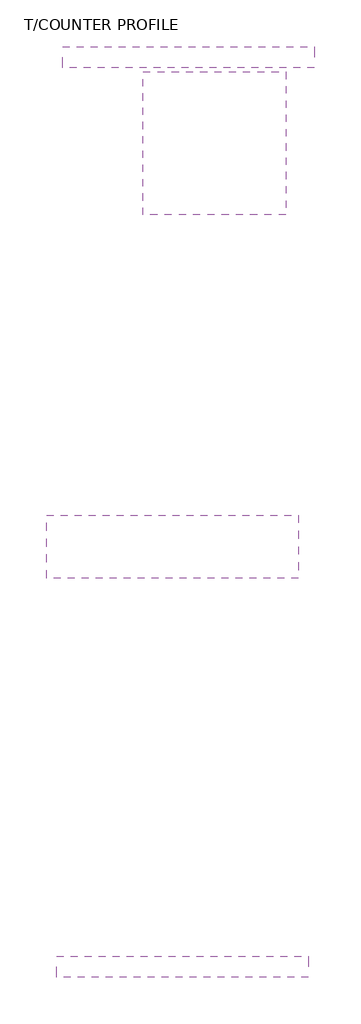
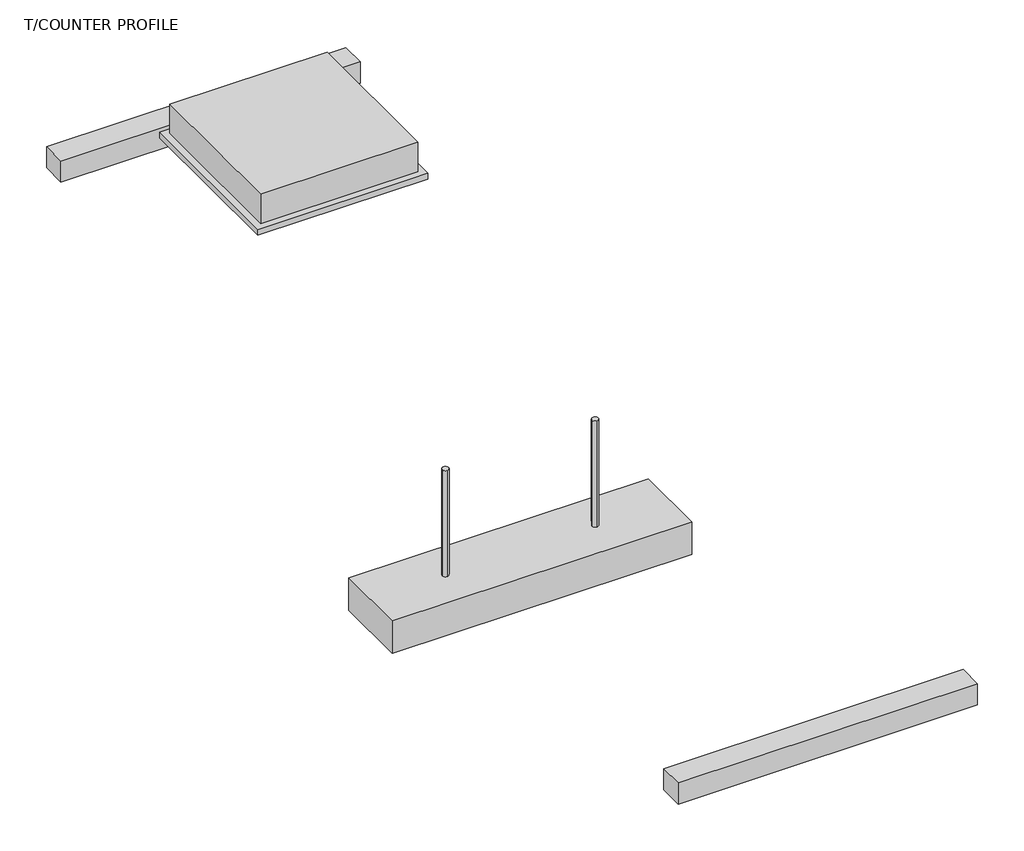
# One storey: 3 light fixtures, 1 air terminal.
"""IFC4 building model written with IfcOpenShell, lengths in millimetres."""

from ifc_helpers import new_model, si_unit, origin, place, context, project, spatial, transform, mapped, element, save
from components import air_terminal_630x630_c73c987f, light_fixture_c59fea23, light_fixture_300x1200_120v_594f6578

model = new_model("IFC4")

# Units and contexts
model_context = context("Model", 3, world=origin())
ifc_project = project(units=[si_unit("LENGTHUNIT", "METRE", prefix="MILLI")], contexts=[model_context])

# Site, building, storey
site = spatial("IfcSite", under=ifc_project)
building = spatial("IfcBuilding", under=site)
storey = spatial("IfcBuildingStorey", under=building, Name="T/COUNTER PROFILE", Elevation=700.0)

# Air terminal
placement = place(None, origin())
air_terminal_630x630_shape = air_terminal_630x630_c73c987f(model_context)
element("IfcAirTerminal", 1, ObjectType="排风格栅 - 矩形 - 排烟 - 板式 - 主体 : 630x630", at=placement, inside=storey, context=model_context, shape_type="MappedRepresentation", body=[
    mapped(air_terminal_630x630_shape, transform((-2766.048731, 3637.016625, 2500.0), x_axis=(1.0, 0.0, 0.0), y_axis=(0.0, -1.0, 0.0), z_axis=(0.0, 0.0, -1.0))),
])

# Light fixtures
light_fixture_shape = light_fixture_c59fea23(model_context)
element("IfcLightFixture", 2, ObjectType="M_条状照明设备 : 1200 1 盏灯 - 120", at=placement, inside=storey, context=model_context, shape_type="MappedRepresentation", body=[
    mapped(light_fixture_shape, transform((-3519.0009251, -283.983375, 2410.0), x_axis=(1.0, 0.0, 0.0), y_axis=(0.0, 1.0, 0.0), z_axis=(0.0, 0.0, 1.0))),
])
element("IfcLightFixture", 3, ObjectType="M_条状照明设备 : 1200 1 盏灯 - 120", at=placement, inside=storey, context=model_context, shape_type="MappedRepresentation", body=[
    mapped(light_fixture_shape, transform((-3490.8419422, 4048.016625, 2410.0), x_axis=(1.0, 0.0, 0.0), y_axis=(0.0, 1.0, 0.0), z_axis=(0.0, 0.0, 1.0))),
])
light_fixture_300x1200_120v_shape = light_fixture_300x1200_120v_594f6578(model_context)
element("IfcLightFixture", 4, ObjectType="M_吊式照明设备 : 300x1200 - 120V", at=placement, inside=storey, context=model_context, shape_type="MappedRepresentation", body=[
    mapped(light_fixture_300x1200_120v_shape, transform((-3566.8419422, 1818.9525017, 2500.0), x_axis=(1.0, 0.0, 0.0), y_axis=(0.0, -1.0, 0.0), z_axis=(0.0, 0.0, -1.0))),
])

save(model, "model.ifc")
